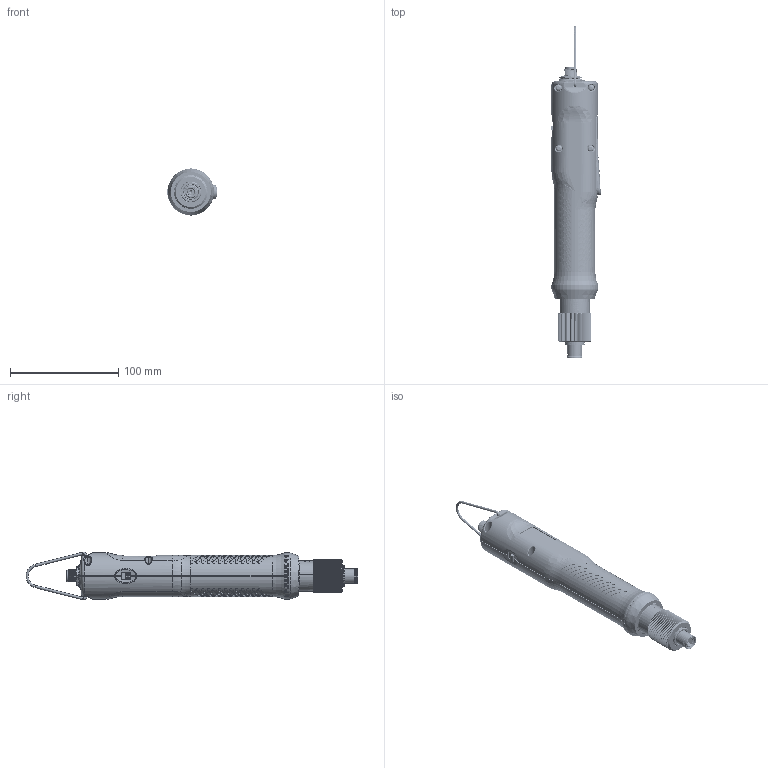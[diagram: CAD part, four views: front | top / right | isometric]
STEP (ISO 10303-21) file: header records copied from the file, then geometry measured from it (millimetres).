
FILE_DESCRIPTION (( 'STEP AP214' ), '1' );
FILE_NAME ('KBL 30FR.STEP', '2013-06-07T06:15:58', ( '' ), ( '' ), 'SwSTEP 2.0', 'SolidWorks 2013', '' );
FILE_SCHEMA (( 'AUTOMOTIVE_DESIGN' ));
Length unit declared in the file: millimetre
Products named in the file (1): KBL 30FR
Bounding box: 46.47 x 306.38 x 44.05 mm (x, y, z)
Volume: 101649 mm3; surface area: 94517.3 mm2
Topology: 23 solids, 23 shells, 3126 faces, 8236 edges, 5265 vertices
Faces by surface type: cylinder 1424, plane 867, cone 333, bspline 267, torus 198, sphere 37
Entity records: 185790 total; most frequent: CARTESIAN_POINT 80279, ORIENTED_EDGE 16356, DIRECTION 13123, EDGE_CURVE 8178, VERTEX_POINT 5253, AXIS2_PLACEMENT_3D 5025, EDGE_LOOP 3321, UNCERTAINTY_MEASURE_WITH_UNIT 3151
